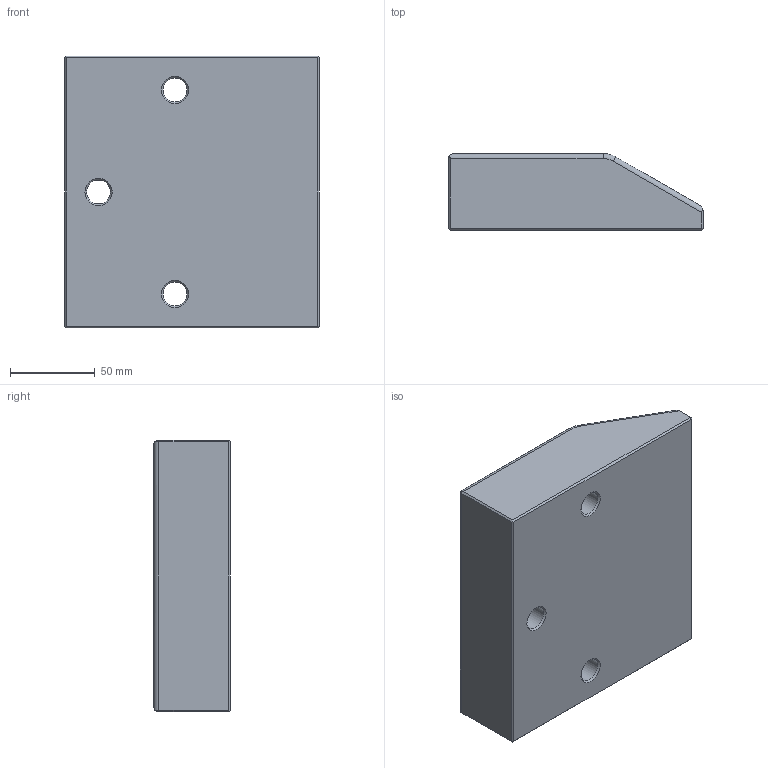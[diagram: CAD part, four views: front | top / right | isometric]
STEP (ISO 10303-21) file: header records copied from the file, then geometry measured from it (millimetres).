
FILE_DESCRIPTION(/* description */ ('Impex Ready, www.impex-ready.pl'),/* implementation_level */ '2;1');
FILE_NAME(/* name */ 'C:\Users\VIKKY\Nextcloud\SM\projekt 10 - części na stronę internetową\Pliki_3D_new\346 Kliny CA10\346_CA10_STEP\CA10.16045150.ipt.step',/* time_stamp */ '2021-12-08T18:50:22+03:00',/* author */ ('SM'),/* organization */ (''),/* preprocessor_version */ 'ST-DEVELOPER v18.1',/* originating_system */ 'Autodesk Inventor 2021',/* authorisation */ '');
FILE_SCHEMA (('AUTOMOTIVE_DESIGN { 1 0 10303 214 3 1 1 }'));
Length unit declared in the file: millimetre
Products named in the file (1): CA10.16045150
Bounding box: 150 x 45 x 160 mm (x, y, z)
Volume: 902912.8 mm3; surface area: 75673.7 mm2
Topology: 1 solids, 1 shells, 41 faces, 95 edges, 59 vertices
Faces by surface type: plane 20, cylinder 13, torus 5, cone 3
Full cylindrical faces by diameter (mm): 14 x3, 20 x3
Entity records: 1289 total; most frequent: DIRECTION 219, CARTESIAN_POINT 210, ORIENTED_EDGE 190, EDGE_CURVE 95, AXIS2_PLACEMENT_3D 84, VERTEX_POINT 59, LINE 51, VECTOR 51
